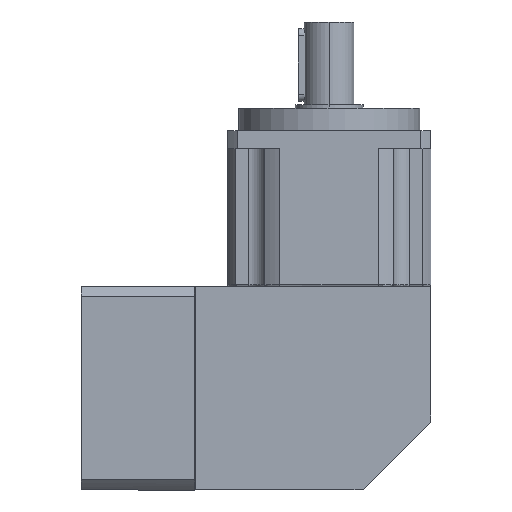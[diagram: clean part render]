
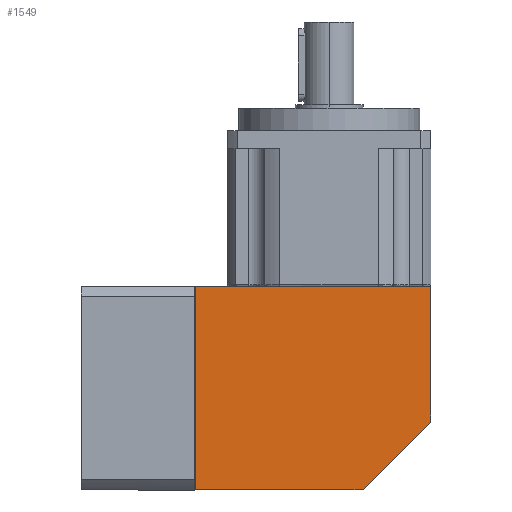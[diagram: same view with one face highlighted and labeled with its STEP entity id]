
A CAD part, left-side view. The second image highlights one B-rep face of the part: STEP entity #1549.
In plain terms, the highlighted planar face has unit normal (-1, 0, 0).
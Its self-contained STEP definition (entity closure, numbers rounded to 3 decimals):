
#68 = VECTOR ( 'NONE', #1151, 1000. ) ;
#203 = LINE ( 'NONE', #3557, #68 ) ;
#254 = VERTEX_POINT ( 'NONE', #2261 ) ;
#517 = EDGE_LOOP ( 'NONE', ( #1156, #4614, #1289, #4467, #547 ) ) ;
#547 = ORIENTED_EDGE ( 'NONE', *, *, #2541, .F. ) ;
#610 = VERTEX_POINT ( 'NONE', #5015 ) ;
#614 = CARTESIAN_POINT ( 'NONE',  ( -45., 59., -158.6 ) ) ;
#669 = DIRECTION ( 'NONE',  ( 0., 0., 1. ) ) ;
#787 = DIRECTION ( 'NONE',  ( 0., 1., 0. ) ) ;
#901 = EDGE_CURVE ( 'NONE', #254, #5030, #1530, .T. ) ;
#916 = CARTESIAN_POINT ( 'NONE',  ( -45., -45., -68.6 ) ) ;
#930 = EDGE_CURVE ( 'NONE', #3335, #3607, #1400, .T. ) ;
#1007 = EDGE_CURVE ( 'NONE', #3607, #5030, #203, .T. ) ;
#1151 = DIRECTION ( 'NONE',  ( 0., -1., 0. ) ) ;
#1156 = ORIENTED_EDGE ( 'NONE', *, *, #3679, .F. ) ;
#1203 = VECTOR ( 'NONE', #3561, 1000. ) ;
#1289 = ORIENTED_EDGE ( 'NONE', *, *, #1007, .F. ) ;
#1400 = LINE ( 'NONE', #2279, #4609 ) ;
#1530 = LINE ( 'NONE', #2369, #2469 ) ;
#1549 = ADVANCED_FACE ( 'NONE', ( #3389 ), #1721, .F. ) ;
#1685 = AXIS2_PLACEMENT_3D ( 'NONE', #916, #4112, #3718 ) ;
#1721 = PLANE ( 'NONE',  #1685 ) ;
#1953 = CARTESIAN_POINT ( 'NONE',  ( -45., -15., -158.6 ) ) ;
#2261 = CARTESIAN_POINT ( 'NONE',  ( -45., -45., -128.6 ) ) ;
#2279 = CARTESIAN_POINT ( 'NONE',  ( -45., 59., -113.6 ) ) ;
#2369 = CARTESIAN_POINT ( 'NONE',  ( -45., -45., -98.6 ) ) ;
#2469 = VECTOR ( 'NONE', #669, 1000. ) ;
#2541 = EDGE_CURVE ( 'NONE', #610, #3335, #2825, .T. ) ;
#2682 = DIRECTION ( 'NONE',  ( 0., 0., 1. ) ) ;
#2825 = LINE ( 'NONE', #3168, #3769 ) ;
#3168 = CARTESIAN_POINT ( 'NONE',  ( -45., 7., -158.6 ) ) ;
#3335 = VERTEX_POINT ( 'NONE', #614 ) ;
#3389 = FACE_OUTER_BOUND ( 'NONE', #517, .T. ) ;
#3557 = CARTESIAN_POINT ( 'NONE',  ( -45., 7., -68.6 ) ) ;
#3561 = DIRECTION ( 'NONE',  ( 0., 0.707, -0.707 ) ) ;
#3568 = CARTESIAN_POINT ( 'NONE',  ( -45., -45., -68.6 ) ) ;
#3607 = VERTEX_POINT ( 'NONE', #3905 ) ;
#3679 = EDGE_CURVE ( 'NONE', #254, #610, #4398, .T. ) ;
#3718 = DIRECTION ( 'NONE',  ( 0., 0., -1. ) ) ;
#3769 = VECTOR ( 'NONE', #787, 1000. ) ;
#3905 = CARTESIAN_POINT ( 'NONE',  ( -45., 59., -68.6 ) ) ;
#4112 = DIRECTION ( 'NONE',  ( 1., 0., 0. ) ) ;
#4398 = LINE ( 'NONE', #1953, #1203 ) ;
#4467 = ORIENTED_EDGE ( 'NONE', *, *, #930, .F. ) ;
#4609 = VECTOR ( 'NONE', #2682, 1000. ) ;
#4614 = ORIENTED_EDGE ( 'NONE', *, *, #901, .T. ) ;
#5015 = CARTESIAN_POINT ( 'NONE',  ( -45., -15., -158.6 ) ) ;
#5030 = VERTEX_POINT ( 'NONE', #3568 ) ;
